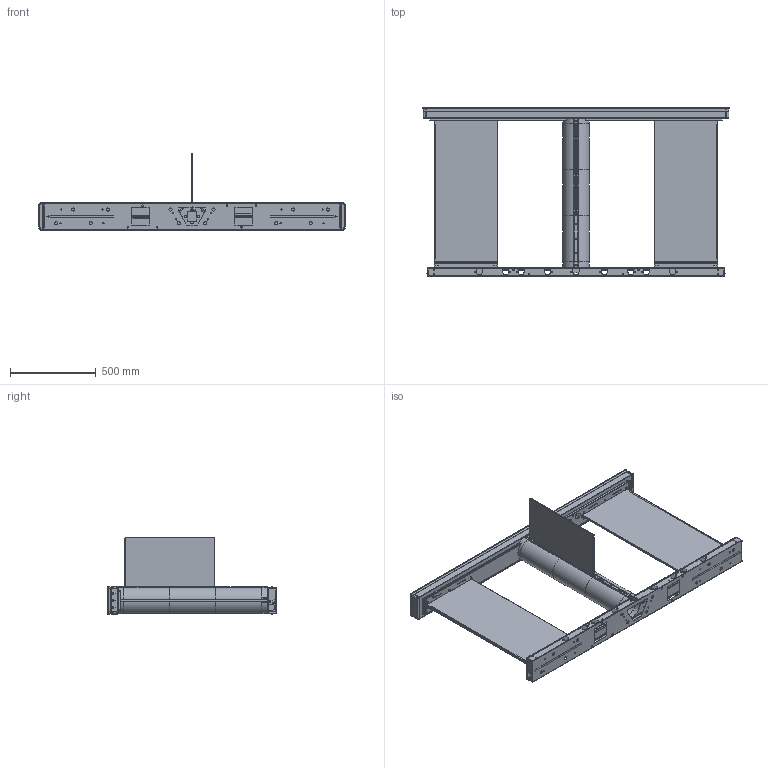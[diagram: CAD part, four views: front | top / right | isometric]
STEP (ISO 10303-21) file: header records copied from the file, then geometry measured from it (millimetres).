
FILE_DESCRIPTION (( 'STEP AP214' ), '1' );
FILE_NAME ('ユニ_サイドS【標準】.STEP', '2023-02-27T04:42:57', ( 'cadcl' ), ( 'Hewlett-Packard Company' ), 'SwSTEP 2.0', 'SolidWorks 2022', '' );
FILE_SCHEMA (( 'AUTOMOTIVE_DESIGN' ));
Length unit declared in the file: millimetre
Products named in the file (52): 201-06315-04; 201-06515-66; Z01-00618-00; Z03-00734-00; 201-06315-19; Z07-00042-00_２．３：２．３; 201-06515-74; 201-06312-02; 201-06316-25; 201-06527-46; 201-06315-18; 201-06204-73; 201-06315-31; 201-06313-83; ユニ_サイドS【標準】; 201-06515-65; 201-06203-16; 201-06313-87; 201-06203-11; 201-06527-55; 201-06210-58; 201-06315-32; 201-06316-33; 201-06313-82; 201-06315-66; 201-06203-55; 201-06315-69; 201-06515-68; 201-06315-02; 201-06318-10; 201-06316-64; 201-06313-34; 201-06315-00_デフォルト; 201-06315-57; 201-06316-23; 201-06515-71; 201-06315-68; 201-06527-43; 201-06527-42; 201-06315-67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
Assembly tree (123 placements, depth 4):
  ユニ_サイドS【標準】
    201-06527-46
      201-06527-51
        201-06527-57
        201-06515-85
        201-06527-55
        Z01-00599-00  x12
      201-06316-32
        201-06313-34
      201-06316-33
        201-06203-15
        201-06203-14
      201-06316-25
        201-06203-15
        201-06203-14
      201-06316-23
        201-06210-58
      201-06203-16  x2
      201-06203-13  x2
    201-06515-20_露出用ベースカバー取付用
      201-06313-87
      201-06515-65
      201-06316-64  x2
      201-06515-68  x2
      201-06515-66
        201-06515-67
        201-06527-41
      201-06527-42
        201-06315-57
        201-06527-43
      201-06515-71  x2
      201-06515-73  x4
      201-06515-74
      Z01-00618-00  x16
    201-06315-18  x2
      201-06315-19
    201-06315-31  x2
      201-06315-32
    201-06203-55
    201-06313-82
    201-06313-83
    201-06318-10  x2
    Z01-00618-00  x2
    201-06315-00_デフォルト
      201-06312-02
      201-06315-02  x2
        201-06315-66
        201-06204-73
        201-06203-11
      201-06315-04  x2
        201-06315-67
        201-06204-73
        201-06203-11
      201-06315-68  x2
      201-06315-69  x2
      Z03-00734-00  x19
      Z07-00042-00_２．３：２．３  x8
Bounding box: 1780 x 980 x 446.1 mm (x, y, z)
Volume: 14017764.1 mm3; surface area: 6190024.5 mm2
Topology: 113 solids, 113 shells, 4284 faces, 10794 edges, 6876 vertices
Faces by surface type: plane 2296, cylinder 1662, cone 204, torus 86, bspline 36
Entity records: 77393 total; most frequent: CARTESIAN_POINT 13820, DIRECTION 13124, ORIENTED_EDGE 12444, EDGE_CURVE 6222, AXIS2_PLACEMENT_3D 4594, VERTEX_POINT 4004, LINE 3936, VECTOR 3936
